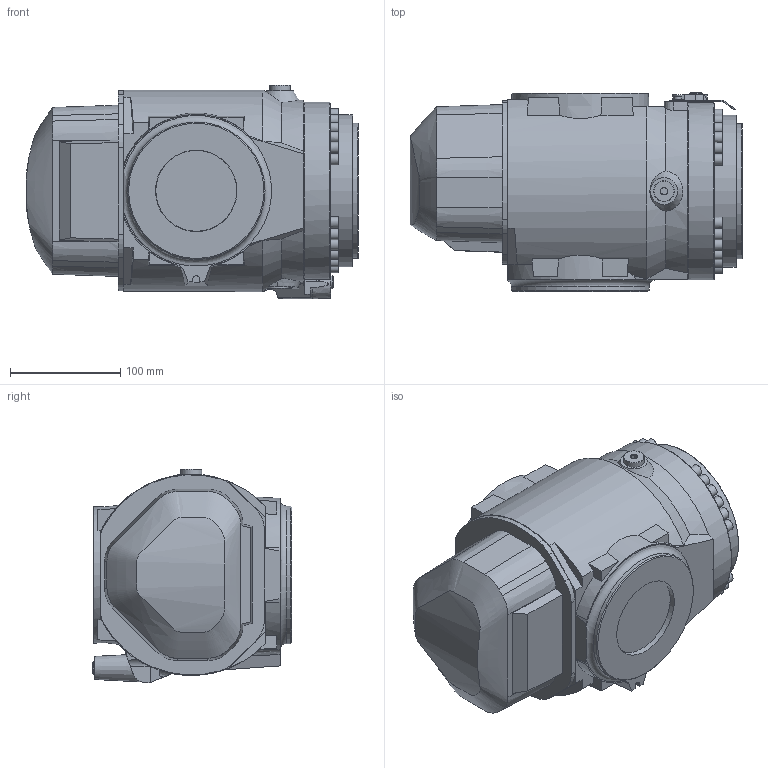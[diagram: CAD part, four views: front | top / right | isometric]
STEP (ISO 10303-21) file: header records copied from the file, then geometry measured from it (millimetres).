
FILE_DESCRIPTION (( 'STEP AP203' ), '1' );
FILE_NAME ('IRB6730S_All-400_OC_01_LINK05_CAD.step', '2025-12-19T13:20:38', ( '' ), ( '' ), 'SwSTEP 2.0', 'SolidWorks 2024', '' );
FILE_SCHEMA (( 'CONFIG_CONTROL_DESIGN' ));
Length unit declared in the file: millimetre
Products named in the file (1): IRB6730S_All-400_OC_01_LINK05_CAD
Bounding box: 301.69 x 181 x 194.1 mm (x, y, z)
Volume: 6414207 mm3; surface area: 232284 mm2
Topology: 1 solids, 1 shells, 388 faces, 1010 edges, 649 vertices
Faces by surface type: plane 232, cylinder 74, cone 49, bspline 24, torus 9
Full cylindrical faces by diameter (mm): 2.8 x2, 6.351 x2, 10 x2, 10.22 x24, 11.9 x2, 12 x2, 19 x2, 28 x1, 38 x1, 92 x1, 123 x1, 125 x1, 128 x1, 138 x1, 161 x1
Entity records: 13928 total; most frequent: CARTESIAN_POINT 5191, ORIENTED_EDGE 1790, DIRECTION 1709, EDGE_CURVE 895, AXIS2_PLACEMENT_3D 645, VERTEX_POINT 611, EDGE_LOOP 490, FACE_OUTER_BOUND 438
